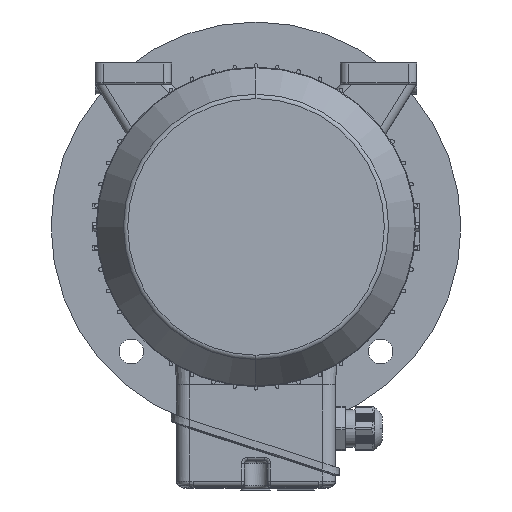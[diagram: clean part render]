
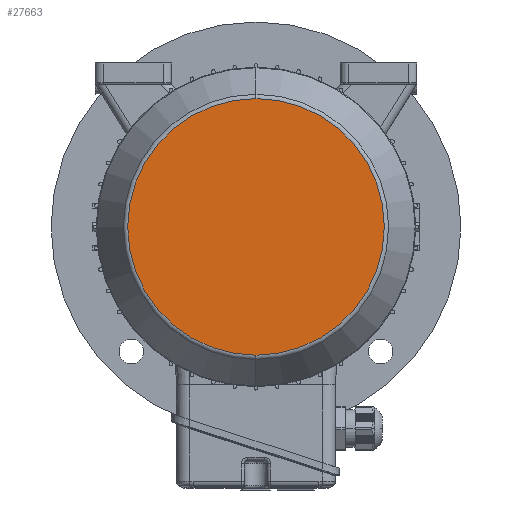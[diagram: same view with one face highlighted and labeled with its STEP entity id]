
A CAD part, left-side view. The second image highlights one B-rep face of the part: STEP entity #27663.
In plain terms, the highlighted planar face has unit normal (-1, 0, 0).
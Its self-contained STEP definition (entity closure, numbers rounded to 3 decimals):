
#2835 = DIRECTION ( 'NONE',  ( 1., 0., 0. ) ) ;
#6832 = DIRECTION ( 'NONE',  ( 0., 0., -1. ) ) ;
#8492 = DIRECTION ( 'NONE',  ( 0., 0., -1. ) ) ;
#10438 = AXIS2_PLACEMENT_3D ( 'NONE', #20381, #40426, #8492 ) ;
#12675 = PLANE ( 'NONE',  #45325 ) ;
#16069 = ORIENTED_EDGE ( 'NONE', *, *, #28796, .F. ) ;
#16468 = DIRECTION ( 'NONE',  ( 0., 0., 1. ) ) ;
#18832 = ORIENTED_EDGE ( 'NONE', *, *, #50985, .F. ) ;
#19095 = CARTESIAN_POINT ( 'NONE',  ( -236.5, 0., 0. ) ) ;
#20036 = VERTEX_POINT ( 'NONE', #43697 ) ;
#20381 = CARTESIAN_POINT ( 'NONE',  ( -236.5, 0., 0. ) ) ;
#21127 = CIRCLE ( 'NONE', #10438, 78.268 ) ;
#24752 = CARTESIAN_POINT ( 'NONE',  ( -236.5, 0., -78.268 ) ) ;
#27663 = ADVANCED_FACE ( 'NONE', ( #41538 ), #12675, .T. ) ;
#28796 = EDGE_CURVE ( 'NONE', #47174, #20036, #48909, .T. ) ;
#32042 = AXIS2_PLACEMENT_3D ( 'NONE', #19095, #2835, #6832 ) ;
#40426 = DIRECTION ( 'NONE',  ( 1., 0., 0. ) ) ;
#40462 = EDGE_LOOP ( 'NONE', ( #16069, #18832 ) ) ;
#40679 = CARTESIAN_POINT ( 'NONE',  ( -236.5, 0., -78.268 ) ) ;
#41538 = FACE_OUTER_BOUND ( 'NONE', #40462, .T. ) ;
#43697 = CARTESIAN_POINT ( 'NONE',  ( -236.5, 0., 78.268 ) ) ;
#45325 = AXIS2_PLACEMENT_3D ( 'NONE', #40679, #48666, #16468 ) ;
#47174 = VERTEX_POINT ( 'NONE', #24752 ) ;
#48666 = DIRECTION ( 'NONE',  ( -1., 0., 0. ) ) ;
#48909 = CIRCLE ( 'NONE', #32042, 78.268 ) ;
#50985 = EDGE_CURVE ( 'NONE', #20036, #47174, #21127, .T. ) ;
